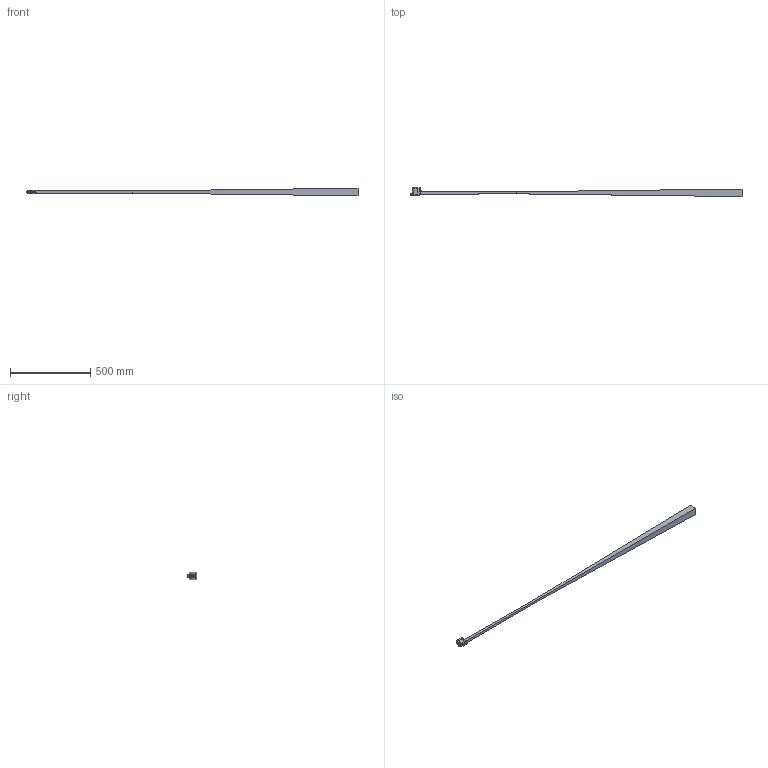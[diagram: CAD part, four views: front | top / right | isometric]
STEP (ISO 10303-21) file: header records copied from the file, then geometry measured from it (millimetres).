
FILE_DESCRIPTION(/* description */ (''),/* implementation_level */ '2;1');
FILE_NAME(/* name */ 'C:\Temp\Publisher-Output\622-21001_FT 55-R-NS-L4.stp',/* time_stamp */ '2023-01-26T00:01:02+01:00',/* author */ ('Sandra.Stahl'),/* organization */ (''),/* preprocessor_version */ 'ST-DEVELOPER v18.1',/* originating_system */ 'Autodesk Inventor 2022',/* authorisation */ '');
FILE_SCHEMA (('AUTOMOTIVE_DESIGN { 1 0 10303 214 3 1 1 }'));
Length unit declared in the file: millimetre
Products named in the file (1): GH-ENG-0039423_Vereinfachen_1
Bounding box: 2062.38 x 56.9 x 47 mm (x, y, z)
Volume: 1593295.4 mm3; surface area: 218595.1 mm2
Topology: 4 solids, 4 shells, 186 faces, 447 edges, 281 vertices
Faces by surface type: plane 97, cylinder 53, cone 11, torus 10, bspline 8, sphere 7
Full cylindrical faces by diameter (mm): 1 x1, 3.57 x1, 4.3 x1, 5 x1, 5.2 x1, 5.498 x1, 10.3 x1, 10.6 x1, 10.8 x1, 12 x1, 13 x1, 16 x1
Entity records: 6135 total; most frequent: CARTESIAN_POINT 1574, DIRECTION 898, ORIENTED_EDGE 884, EDGE_CURVE 442, AXIS2_PLACEMENT_3D 325, VERTEX_POINT 279, LINE 248, VECTOR 248
